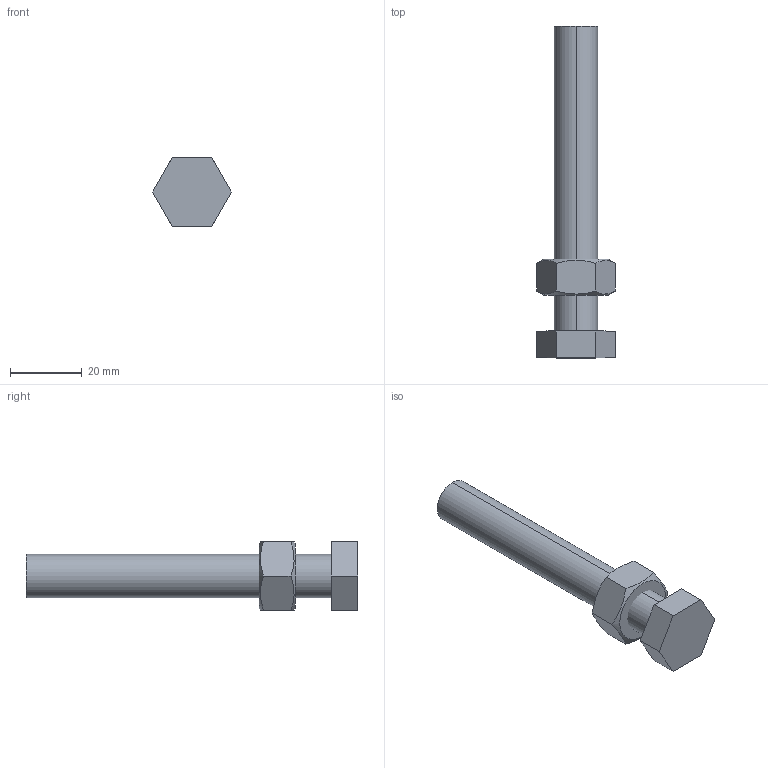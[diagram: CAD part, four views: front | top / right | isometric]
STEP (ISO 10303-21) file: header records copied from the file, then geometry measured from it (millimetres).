
FILE_DESCRIPTION (( 'STEP AP203' ), '1' );
FILE_NAME ('PP-M12.STEP', '2011-05-20T19:09:27', ( 'Usuario' ), ( '' ), 'SwSTEP 2.0', 'SolidWorks 2011', '' );
FILE_SCHEMA (( 'CONFIG_CONTROL_DESIGN' ));
Length unit declared in the file: millimetre
Products named in the file (3): 12.50022; PP-M12; 11.50004
Assembly tree (2 placements, depth 2):
  PP-M12
    11.50004
    12.50022
Bounding box: 21.94 x 92.5 x 19 mm (x, y, z)
Volume: 14174.9 mm3; surface area: 5693.3 mm2
Topology: 2 solids, 2 shells, 29 faces, 68 edges, 44 vertices
Faces by surface type: plane 17, cone 8, cylinder 4
Entity records: 1239 total; most frequent: CARTESIAN_POINT 282, DIRECTION 136, ORIENTED_EDGE 136, EDGE_CURVE 68, AXIS2_PLACEMENT_3D 50, VERTEX_POINT 44, VECTOR 36, LINE 36
